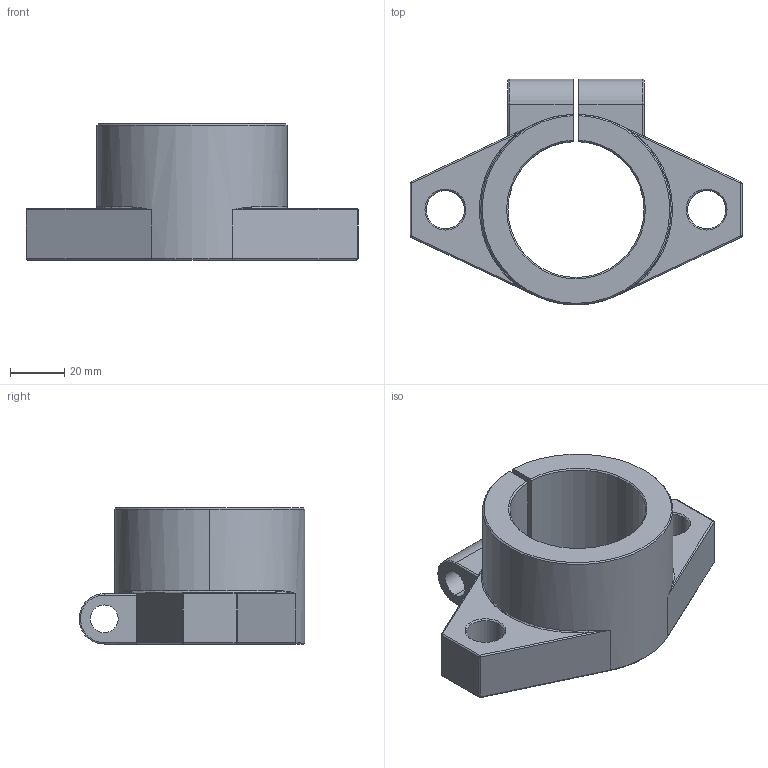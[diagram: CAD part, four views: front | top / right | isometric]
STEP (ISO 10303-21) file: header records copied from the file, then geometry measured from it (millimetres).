
FILE_DESCRIPTION (( 'STEP AP214' ), '1' );
FILE_NAME ('2.7128 Akselin päätykiinnike SHF50.STEP', '2024-06-06T06:16:31', ( '' ), ( '' ), 'SwSTEP 2.0', 'SolidWorks 2024', '' );
FILE_SCHEMA (( 'AUTOMOTIVE_DESIGN' ));
Length unit declared in the file: millimetre
Products named in the file (1): 2.7128 Akselin päätykiinnike SHF50
Bounding box: 122 x 83 x 50 mm (x, y, z)
Volume: 132678.6 mm3; surface area: 33266.4 mm2
Topology: 1 solids, 1 shells, 90 faces, 208 edges, 116 vertices
Faces by surface type: cylinder 36, cone 19, plane 17, sphere 8, torus 6, bspline 4
Entity records: 2770 total; most frequent: CARTESIAN_POINT 714, DIRECTION 456, ORIENTED_EDGE 408, EDGE_CURVE 204, AXIS2_PLACEMENT_3D 183, VERTEX_POINT 116, EDGE_LOOP 98, CIRCLE 96
